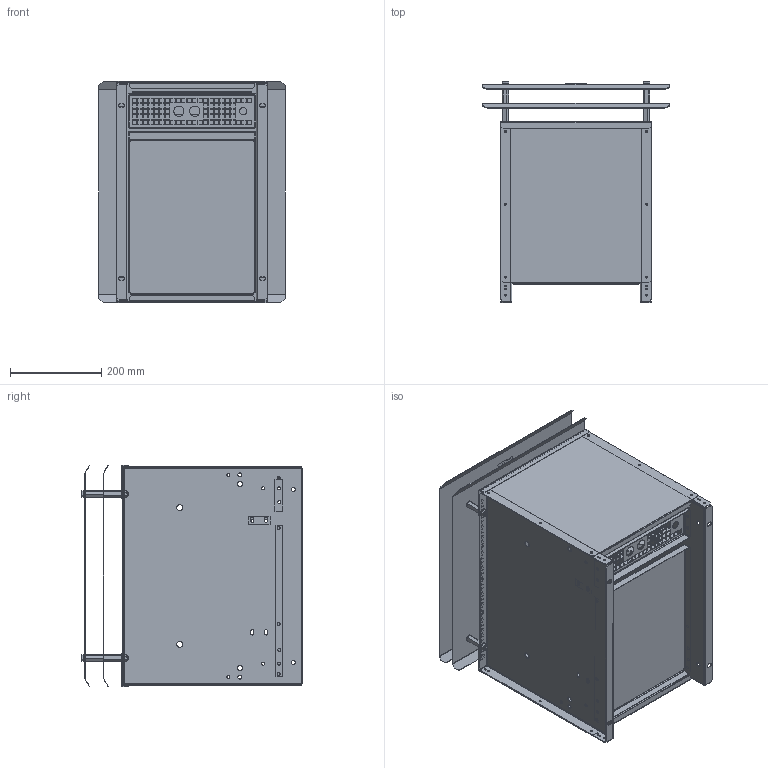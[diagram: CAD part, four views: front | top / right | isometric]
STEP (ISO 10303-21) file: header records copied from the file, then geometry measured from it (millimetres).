
FILE_DESCRIPTION(('STEP AP242'),'1');
FILE_NAME('vw3a7736.stp','2021-01-08T18:29:28',('TraceParts'),('TraceParts S.A.'),'Spatial InterOp 3D',' ',' ');
FILE_SCHEMA(('AP242_MANAGED_MODEL_BASED_3D_ENGINEERING_MIM_LF {1 0 10303 442 1 1 4}'));
Length unit declared in the file: millimetre
Products named in the file (1): vw3a7736_1
Bounding box: 410 x 486.3 x 486 mm (x, y, z)
Volume: 1677075.9 mm3; surface area: 2722473.7 mm2
Topology: 2 solids, 14 shells, 2402 faces, 6583 edges, 4300 vertices
Faces by surface type: plane 1637, cylinder 487, bspline 168, cone 82, torus 28
Entity records: 85054 total; most frequent: CARTESIAN_POINT 23367, ORIENTED_EDGE 13134, DIRECTION 11691, EDGE_CURVE 6567, LINE 4955, VECTOR 4955, VERTEX_POINT 4300, AXIS2_PLACEMENT_3D 3368
